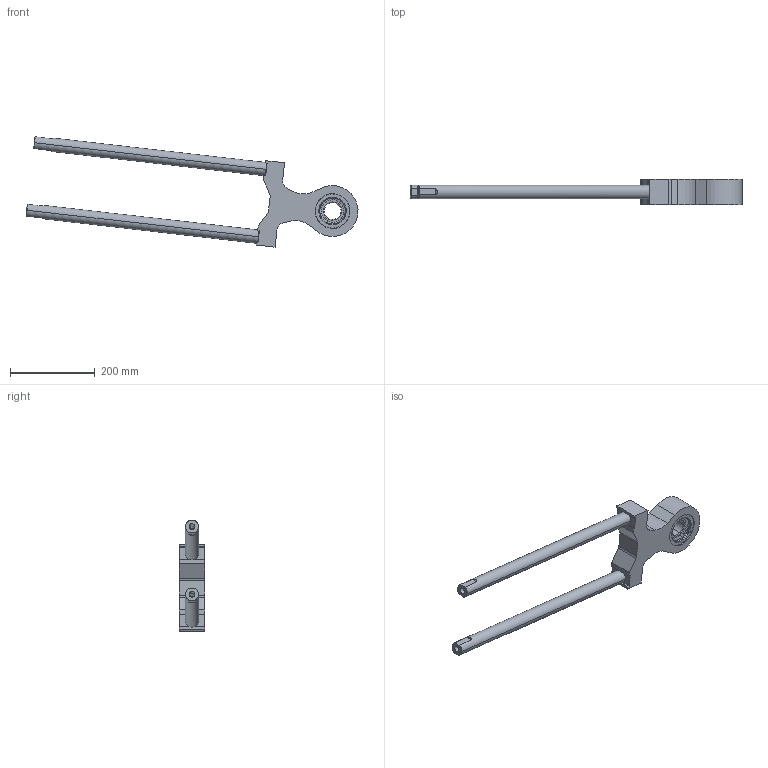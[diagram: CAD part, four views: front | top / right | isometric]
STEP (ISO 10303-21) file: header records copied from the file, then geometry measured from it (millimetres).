
FILE_DESCRIPTION(('CATIA V5 STEP Exchange','CAx-IF Rec.Pracs.--- Model Styling and Organization---1.2---2011-12-15','CAx-IF Rec.Pracs.--- Geometric and Assembly Validation Properties ---3.1---2011-10-19'),'2;1');
FILE_NAME('Z:\ROBOT\CATIA06\products\MC1000DL\Light_model\Step\155_J4Balancer_Pull_Rod_MC1000DL-02.stp','2016-12-26T04:02:55+00:00',('none'),('none'),'Version 5-6 Release 2012','CATIA V5 STEP AP214','none');
FILE_SCHEMA(('AUTOMOTIVE_DESIGN { 1 0 10303 214 1 1 1 1 }'));
Length unit declared in the file: millimetre
Products named in the file (1): 155_J4Balancer_Pull_Rod_MC1000DL-02
Bounding box: 781.94 x 59 x 260 mm (x, y, z)
Volume: 2044585.9 mm3; surface area: 269415.2 mm2
Topology: 6 solids, 7 shells, 198 faces, 454 edges, 276 vertices
Faces by surface type: plane 69, cone 48, cylinder 45, torus 32, sphere 4
Entity records: 5308 total; most frequent: CARTESIAN_POINT 979, ORIENTED_EDGE 892, DIRECTION 680, EDGE_CURVE 446, AXIS2_PLACEMENT_3D 362, VERTEX_POINT 276, CIRCLE 234, EDGE_LOOP 222
